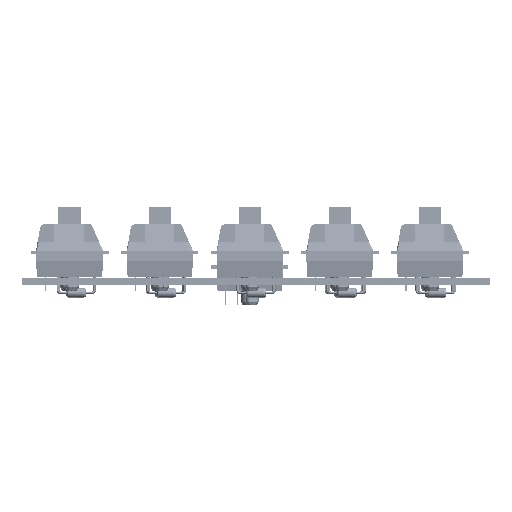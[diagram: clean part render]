
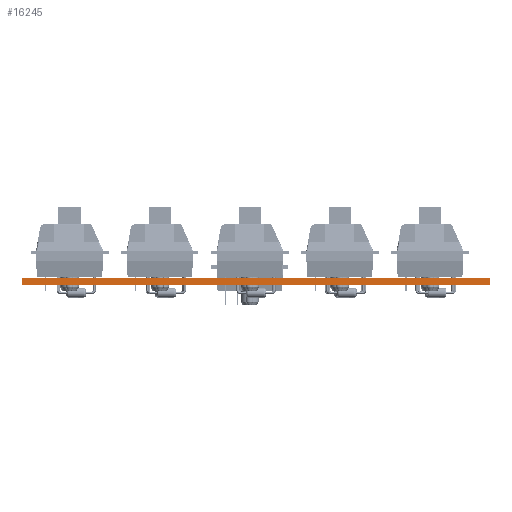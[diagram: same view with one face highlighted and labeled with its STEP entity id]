
A CAD part, left-side view. The second image highlights one B-rep face of the part: STEP entity #16245.
In plain terms, the highlighted planar face has unit normal (-1, 0, 0).
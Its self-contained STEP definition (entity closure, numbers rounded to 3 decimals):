
#5418 = VERTEX_POINT('',#5419);
#5419 = CARTESIAN_POINT('',(55.74,-67.64,0.));
#5425 = EDGE_CURVE('',#5426,#5418,#5428,.T.);
#5426 = VERTEX_POINT('',#5427);
#5427 = CARTESIAN_POINT('',(55.74,-166.54,0.));
#5428 = LINE('',#5429,#5430);
#5429 = CARTESIAN_POINT('',(55.74,-166.54,0.));
#5430 = VECTOR('',#5431,1.);
#5431 = DIRECTION('',(0.,1.,0.));
#10818 = VERTEX_POINT('',#10819);
#10819 = CARTESIAN_POINT('',(55.74,-67.64,1.6));
#10825 = EDGE_CURVE('',#10826,#10818,#10828,.T.);
#10826 = VERTEX_POINT('',#10827);
#10827 = CARTESIAN_POINT('',(55.74,-166.54,1.6));
#10828 = LINE('',#10829,#10830);
#10829 = CARTESIAN_POINT('',(55.74,-166.54,1.6));
#10830 = VECTOR('',#10831,1.);
#10831 = DIRECTION('',(0.,1.,0.));
#16215 = EDGE_CURVE('',#5418,#10818,#16216,.T.);
#16216 = LINE('',#16217,#16218);
#16217 = CARTESIAN_POINT('',(55.74,-67.64,0.));
#16218 = VECTOR('',#16219,1.);
#16219 = DIRECTION('',(0.,0.,1.));
#16245 = ADVANCED_FACE('',(#16246),#16257,.T.);
#16246 = FACE_BOUND('',#16247,.T.);
#16247 = EDGE_LOOP('',(#16248,#16254,#16255,#16256));
#16248 = ORIENTED_EDGE('',*,*,#16249,.T.);
#16249 = EDGE_CURVE('',#5426,#10826,#16250,.T.);
#16250 = LINE('',#16251,#16252);
#16251 = CARTESIAN_POINT('',(55.74,-166.54,0.));
#16252 = VECTOR('',#16253,1.);
#16253 = DIRECTION('',(0.,0.,1.));
#16254 = ORIENTED_EDGE('',*,*,#10825,.T.);
#16255 = ORIENTED_EDGE('',*,*,#16215,.F.);
#16256 = ORIENTED_EDGE('',*,*,#5425,.F.);
#16257 = PLANE('',#16258);
#16258 = AXIS2_PLACEMENT_3D('',#16259,#16260,#16261);
#16259 = CARTESIAN_POINT('',(55.74,-166.54,0.));
#16260 = DIRECTION('',(-1.,0.,0.));
#16261 = DIRECTION('',(0.,1.,0.));
